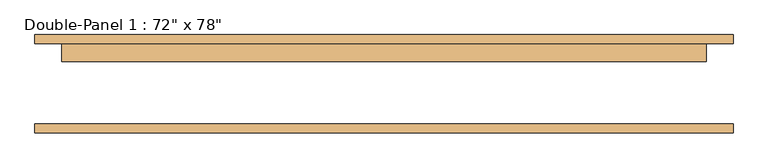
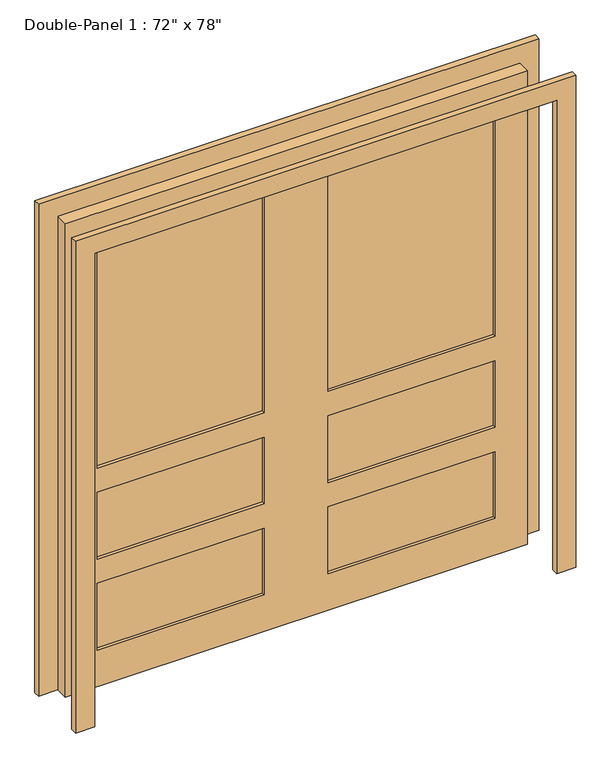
"""IFC4 building model written with IfcOpenShell, lengths in millimetres: door geometry."""

from ifc_helpers import new_model, si_unit, frame, origin, place, context, project, spatial, polyline, outline, extrude, source, transform, mapped, element, save


def door_5adec8b9(model_context):
    return source(origin(), model_context, "Body", "SweptSolid", [
        extrude(outline(polyline([(2057.4, -990.6), (0.0, -990.6), (0.0, -914.4), (1981.2, -914.4), (1981.2, 914.4), (0.0, 914.4), (0.0, 990.6), (2057.4, 990.6), (2057.4, -990.6)])), frame((0.0, 114.3, 0.0), z_axis=(0.0, 1.0, 0.0), x_axis=(0.0, 0.0, 1.0)), (0.0, 0.0, 1.0), 25.4),
        extrude(outline(polyline([(127.0, 101.6), (787.4, 101.6), (787.4, 76.2), (127.0, 76.2), (127.0, 101.6)])), frame((0.0, 0.0, 914.4), z_axis=(0.0, 0.0, 1.0), x_axis=(1.0, 0.0, 0.0)), (0.0, 0.0, 1.0), 914.4),
        extrude(outline(polyline([(127.0, 101.6), (787.4, 101.6), (787.4, 76.2), (127.0, 76.2), (127.0, 101.6)])), frame((0.0, 0.0, 533.4), z_axis=(0.0, 0.0, 1.0), x_axis=(1.0, 0.0, 0.0)), (0.0, 0.0, 1.0), 279.4),
        extrude(outline(polyline([(127.0, 101.6), (787.4, 101.6), (787.4, 76.2), (127.0, 76.2), (127.0, 101.6)])), frame((0.0, 0.0, 152.4), z_axis=(0.0, 0.0, 1.0), x_axis=(1.0, 0.0, 0.0)), (0.0, 0.0, 1.0), 279.4),
        extrude(outline(polyline([(-787.4, 101.6), (-127.0, 101.6), (-127.0, 76.2), (-787.4, 76.2), (-787.4, 101.6)])), frame((0.0, 0.0, 914.4), z_axis=(0.0, 0.0, 1.0), x_axis=(1.0, 0.0, 0.0)), (0.0, 0.0, 1.0), 914.4),
        extrude(outline(polyline([(-787.4, 101.6), (-127.0, 101.6), (-127.0, 76.2), (-787.4, 76.2), (-787.4, 101.6)])), frame((0.0, 0.0, 533.4), z_axis=(0.0, 0.0, 1.0), x_axis=(1.0, 0.0, 0.0)), (0.0, 0.0, 1.0), 279.4),
        extrude(outline(polyline([(-787.4, 101.6), (-127.0, 101.6), (-127.0, 76.2), (-787.4, 76.2), (-787.4, 101.6)])), frame((0.0, 0.0, 152.4), z_axis=(0.0, 0.0, 1.0), x_axis=(1.0, 0.0, 0.0)), (0.0, 0.0, 1.0), 279.4),
        extrude(outline(polyline([(1981.2, -914.4), (0.0, -914.4), (0.0, 914.4), (1981.2, 914.4), (1981.2, -914.4)]), holes=[polyline([(1828.8, 127.0), (1828.8, 787.4), (914.4, 787.4), (914.4, 127.0), (1828.8, 127.0)]), polyline([(533.4, 787.4), (533.4, 127.0), (812.8, 127.0), (812.8, 787.4), (533.4, 787.4)]), polyline([(431.8, 787.4), (152.4, 787.4), (152.4, 127.0), (431.8, 127.0), (431.8, 787.4)]), polyline([(1828.8, -127.0), (914.4, -127.0), (914.4, -787.4), (1828.8, -787.4), (1828.8, -127.0)]), polyline([(812.8, -787.4), (812.8, -127.0), (533.4, -127.0), (533.4, -787.4), (812.8, -787.4)]), polyline([(152.4, -127.0), (152.4, -787.4), (431.8, -787.4), (431.8, -127.0), (152.4, -127.0)])]), frame((0.0, 63.5, 0.0), z_axis=(0.0, 1.0, 0.0), x_axis=(0.0, 0.0, 1.0)), (0.0, 0.0, 1.0), 50.8),
        extrude(outline(polyline([(1981.2, -914.4), (1981.2, 914.4), (0.0, 914.4), (0.0, 990.6), (2057.4, 990.6), (2057.4, -990.6), (0.0, -990.6), (0.0, -914.4), (1981.2, -914.4)])), frame((0.0, -139.7, 0.0), z_axis=(0.0, 1.0, 0.0), x_axis=(0.0, 0.0, 1.0)), (0.0, 0.0, 1.0), 25.4),
    ])


if __name__ == "__main__":
    model = new_model("IFC4")
    model_context = context("Model", 3, world=origin())
    ifc_project = project(units=[si_unit("LENGTHUNIT", "METRE", prefix="MILLI")], contexts=[model_context])
    site = spatial("IfcSite", under=ifc_project)
    building = spatial("IfcBuilding", under=site)
    placement = place(None, origin())
    door_shape = door_5adec8b9(model_context)
    element("IfcDoor", 1, ObjectType="Double-Panel 1 : 72\" x 78\"", at=placement, inside=building, context=model_context, shape_type="MappedRepresentation", body=[
        mapped(door_shape, transform((0.0, 0.0, 0.0), x_axis=(1.0, 0.0, 0.0), y_axis=(0.0, 1.0, 0.0), z_axis=(0.0, 0.0, 1.0))),
    ])
    save(model, "model.ifc")
